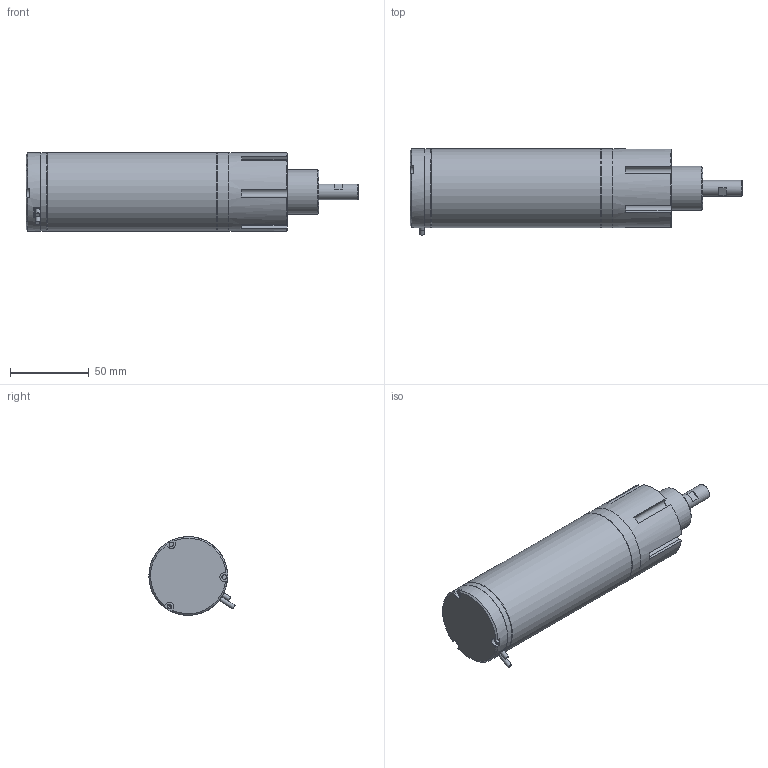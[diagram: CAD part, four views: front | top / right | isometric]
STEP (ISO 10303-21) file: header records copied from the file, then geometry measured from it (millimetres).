
FILE_DESCRIPTION((''),'2;1');
FILE_NAME('E:\CBL SIR FOR MIKE FERRIS\CBL50-010-5X-2.stp','2016-01-27T11:05:01',('ryan'),(''),'Autodesk Inventor 2008','Autodesk Inventor 2008','');
FILE_SCHEMA(('AUTOMOTIVE_DESIGN { 1 0 10303 214 1 1 1 1 }'));
Length unit declared in the file: millimetre
Products named in the file (30): CBL50-010-7X-2; 305052-MAG_A; 14717-MAG10_A; 14717-50_A; MAG-CBL50-10-2X; 66569-10_A; 14717-28_A; AEDR-V2; EADR-PCB_V2; AEDR-859X; 8JST-0; LD-AEDR; CBL5025-FLEX1; CA235MAIN; SM04B-SSR-H-TB; SM98B-SSR-H-TB; CBL50-CABLE; 23633-50_A; CBL35CABLE-GRO; SUDO BEARING; 22991-01_B; 22995-01_A; CB50BRKPIS_V10; CB 35,50 SCALE; 18572-01_A; CTR MAG SPACER; FRT MAG SPACER; 21565-10; GUIDE PIN
Assembly tree (38 placements, depth 4):
  CBL50-010-7X-2
    305052-MAG_A
      14717-MAG10_A
      14717-50_A
      MAG-CBL50-10-2X  x2
        66569-10_A
      14717-28_A
    AEDR-V2
      EADR-PCB_V2
      AEDR-859X
      8JST-0
      LD-AEDR
    CBL5025-FLEX1
    CA235MAIN
      CA235MAIN
      SM04B-SSR-H-TB
      SM98B-SSR-H-TB
      8JST-0  x2
    CBL50-CABLE
      23633-50_A
      CBL35CABLE-GRO
    SUDO BEARING
    22991-01_B
    22995-01_A
    CB50BRKPIS_V10
    CB 35,50 SCALE
    18572-01_A
    CTR MAG SPACER
    FRT MAG SPACER
    21565-10
    GUIDE PIN
Bounding box: 211 x 54.72 x 49.99 mm (x, y, z)
Volume: 264187 mm3; surface area: 121238.1 mm2
Topology: 39 solids, 39 shells, 1106 faces, 2973 edges, 1966 vertices
Faces by surface type: plane 805, cylinder 231, cone 67, bspline 3
Full cylindrical faces by diameter (mm): 1.183 x3, 1.221 x1, 1.4 x2, 1.567 x5, 1.8 x4, 2.013 x8, 2.4 x4, 2.7 x5, 2.9 x5, 3 x10, 3.242 x4, 4 x1, 4.134 x1, 4.4 x1, 4.917 x1, 5 x1, 5.16 x2, 5.2 x1, 6 x1, 8 x1, 10 x2, 12 x1, 19 x3, 20 x1, 25 x1, 28 x1, 50 x4
Entity records: 28051 total; most frequent: CARTESIAN_POINT 5086, DIRECTION 4567, ORIENTED_EDGE 4432, EDGE_CURVE 2216, VECTOR 1675, LINE 1675, VERTEX_POINT 1521, AXIS2_PLACEMENT_3D 1446
